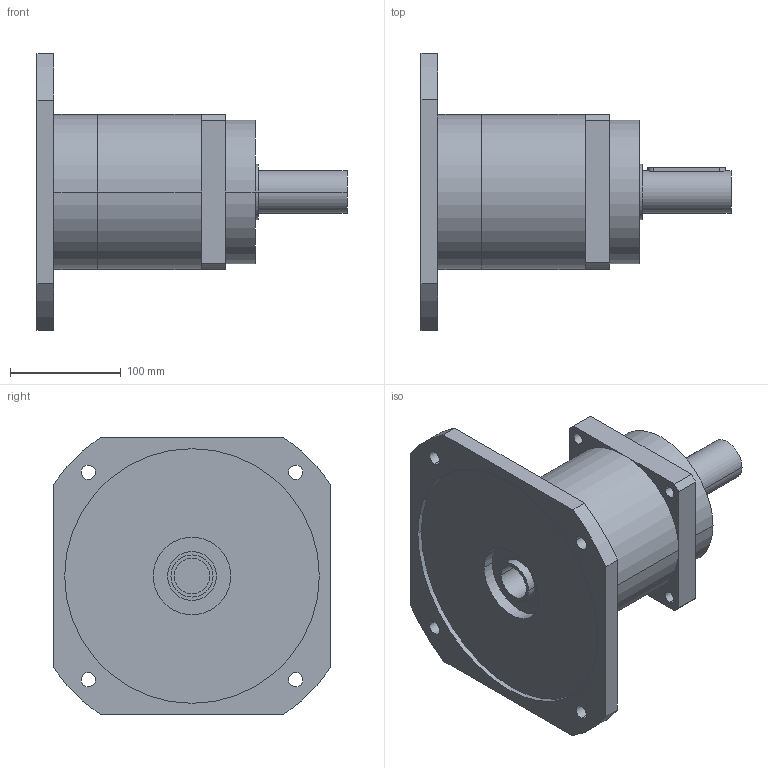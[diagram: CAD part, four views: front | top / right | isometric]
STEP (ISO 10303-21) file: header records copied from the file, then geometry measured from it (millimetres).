
FILE_DESCRIPTION(('CoCreate Modeling STEP Export'),'2;1');
FILE_NAME('GPR150_ig-3-4-5-7_38_B5_32_P07.stp','2014-08-19T16:42:58',(''),(''),'CoCreate Modeling STEP processor for AP214 (Solid Model)','CoCreate Modeling 16.00C 25-Feb-2009 (C) Parametric Technology GmbH','');
FILE_SCHEMA(('AUTOMOTIVE_DESIGN { 1 0 10303 214 1 1 1 1 }'));
Length unit declared in the file: millimetre
Products named in the file (2): GPR150_ig-3-4-5-7_38_B5_32_P07
Assembly tree (1 placements, depth 2):
  GPR150_ig-3-4-5-7_38_B5_32_P07
    GPR150_ig-3-4-5-7_38_B5_32_P07
Bounding box: 280 x 250 x 250 mm (x, y, z)
Volume: 3527710.4 mm3; surface area: 251549.4 mm2
Topology: 1 solids, 1 shells, 81 faces, 220 edges, 150 vertices
Faces by surface type: cylinder 48, plane 27, cone 6
Entity records: 2325 total; most frequent: ORIENTED_EDGE 436, CARTESIAN_POINT 431, DIRECTION 330, EDGE_CURVE 218, VERTEX_POINT 150, AXIS2_PLACEMENT_3D 121, EDGE_LOOP 108, VECTOR 88
